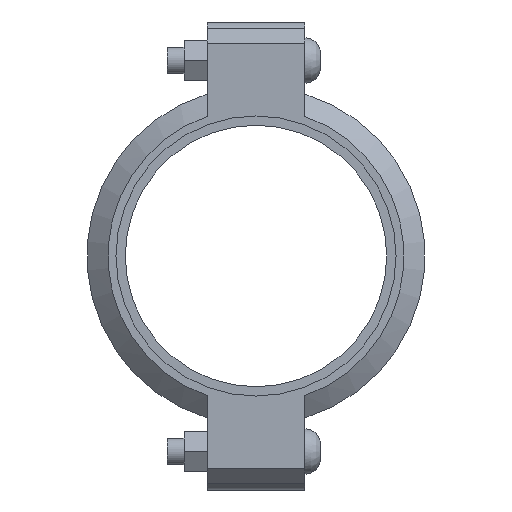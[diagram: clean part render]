
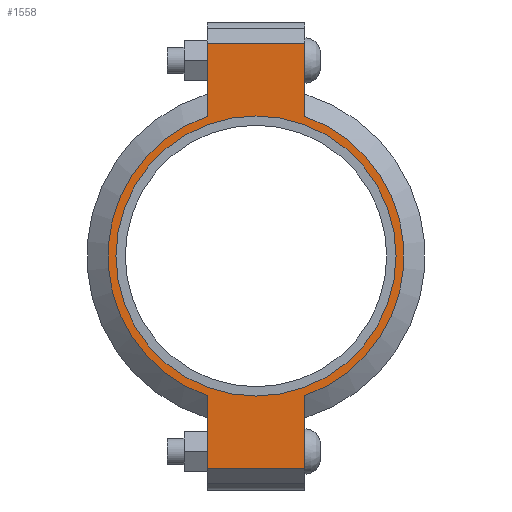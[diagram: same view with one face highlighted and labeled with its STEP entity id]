
A CAD part, left-side view. The second image highlights one B-rep face of the part: STEP entity #1558.
In plain terms, the highlighted planar face has unit normal (-1, 0, 0) as drawn and (0, 0, 1) by its records, which use the part's own axes.
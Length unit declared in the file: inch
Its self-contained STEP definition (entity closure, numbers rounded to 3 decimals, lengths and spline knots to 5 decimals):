
#182=LINE('',#2719,#275);
#190=LINE('',#2755,#283);
#197=LINE('',#2776,#290);
#206=LINE('',#2808,#299);
#207=LINE('',#2812,#300);
#208=LINE('',#2814,#301);
#275=VECTOR('',#2215,0.3937);
#283=VECTOR('',#2231,0.3937);
#290=VECTOR('',#2250,0.3937);
#299=VECTOR('',#2275,0.3937);
#300=VECTOR('',#2280,0.3937);
#301=VECTOR('',#2281,0.3937);
#357=FACE_BOUND('',#535,.T.);
#429=FACE_OUTER_BOUND('',#534,.T.);
#534=EDGE_LOOP('',(#1299,#1300,#1301,#1302,#1303,#1304,#1305,#1306));
#535=EDGE_LOOP('',(#1307));
#607=CIRCLE('',#1777,3.3125);
#633=CIRCLE('',#1836,3.5);
#634=CIRCLE('',#1837,3.5);
#699=VERTEX_POINT('',#2535);
#742=VERTEX_POINT('',#2716);
#743=VERTEX_POINT('',#2718);
#754=VERTEX_POINT('',#2750);
#755=VERTEX_POINT('',#2754);
#762=VERTEX_POINT('',#2773);
#763=VERTEX_POINT('',#2775);
#773=VERTEX_POINT('',#2811);
#774=VERTEX_POINT('',#2813);
#855=EDGE_CURVE('',#699,#699,#607,.T.);
#916=EDGE_CURVE('',#743,#742,#182,.T.);
#930=EDGE_CURVE('',#755,#754,#190,.T.);
#940=EDGE_CURVE('',#763,#762,#197,.T.);
#955=EDGE_CURVE('',#755,#742,#206,.T.);
#956=EDGE_CURVE('',#754,#763,#633,.T.);
#957=EDGE_CURVE('',#773,#762,#207,.T.);
#958=EDGE_CURVE('',#773,#774,#208,.T.);
#959=EDGE_CURVE('',#774,#743,#634,.T.);
#1299=ORIENTED_EDGE('',*,*,#955,.F.);
#1300=ORIENTED_EDGE('',*,*,#930,.T.);
#1301=ORIENTED_EDGE('',*,*,#956,.T.);
#1302=ORIENTED_EDGE('',*,*,#940,.T.);
#1303=ORIENTED_EDGE('',*,*,#957,.F.);
#1304=ORIENTED_EDGE('',*,*,#958,.T.);
#1305=ORIENTED_EDGE('',*,*,#959,.T.);
#1306=ORIENTED_EDGE('',*,*,#916,.T.);
#1307=ORIENTED_EDGE('',*,*,#855,.T.);
#1400=PLANE('',#1835);
#1558=ADVANCED_FACE('',(#429,#357),#1400,.T.);
#1777=AXIS2_PLACEMENT_3D('',#2537,#2091,#2092);
#1835=AXIS2_PLACEMENT_3D('',#2809,#2276,#2277);
#1836=AXIS2_PLACEMENT_3D('',#2810,#2278,#2279);
#1837=AXIS2_PLACEMENT_3D('',#2815,#2282,#2283);
#2091=DIRECTION('center_axis',(0.,0.,-1.));
#2092=DIRECTION('ref_axis',(-1.,0.,0.));
#2215=DIRECTION('',(-1.,0.,0.));
#2231=DIRECTION('',(1.,0.,0.));
#2250=DIRECTION('',(1.,0.,0.));
#2275=DIRECTION('',(0.,1.,0.));
#2276=DIRECTION('center_axis',(0.,0.,1.));
#2277=DIRECTION('ref_axis',(1.,0.,0.));
#2278=DIRECTION('center_axis',(0.,0.,1.));
#2279=DIRECTION('ref_axis',(-1.,0.,0.));
#2280=DIRECTION('',(0.,-1.,0.));
#2281=DIRECTION('',(-1.,0.,0.));
#2282=DIRECTION('center_axis',(0.,0.,1.));
#2283=DIRECTION('ref_axis',(-1.,0.,0.));
#2535=CARTESIAN_POINT('',(3.3125,0.,1.065));
#2537=CARTESIAN_POINT('Origin',(0.,0.,1.065));
#2716=CARTESIAN_POINT('',(-5.035,1.156,1.065));
#2718=CARTESIAN_POINT('',(-3.30358,1.156,1.065));
#2719=CARTESIAN_POINT('',(-5.535,1.156,1.065));
#2750=CARTESIAN_POINT('',(-3.30358,-1.156,1.065));
#2754=CARTESIAN_POINT('',(-5.035,-1.156,1.065));
#2755=CARTESIAN_POINT('',(5.535,-1.156,1.065));
#2773=CARTESIAN_POINT('',(5.035,-1.156,1.065));
#2775=CARTESIAN_POINT('',(3.30358,-1.156,1.065));
#2776=CARTESIAN_POINT('',(5.535,-1.156,1.065));
#2808=CARTESIAN_POINT('',(-5.035,0.578,1.065));
#2809=CARTESIAN_POINT('Origin',(0.,0.,1.065));
#2810=CARTESIAN_POINT('Origin',(0.,0.,1.065));
#2811=CARTESIAN_POINT('',(5.035,1.156,1.065));
#2812=CARTESIAN_POINT('',(5.035,-0.578,1.065));
#2813=CARTESIAN_POINT('',(3.30358,1.156,1.065));
#2814=CARTESIAN_POINT('',(-5.535,1.156,1.065));
#2815=CARTESIAN_POINT('Origin',(0.,0.,1.065));
